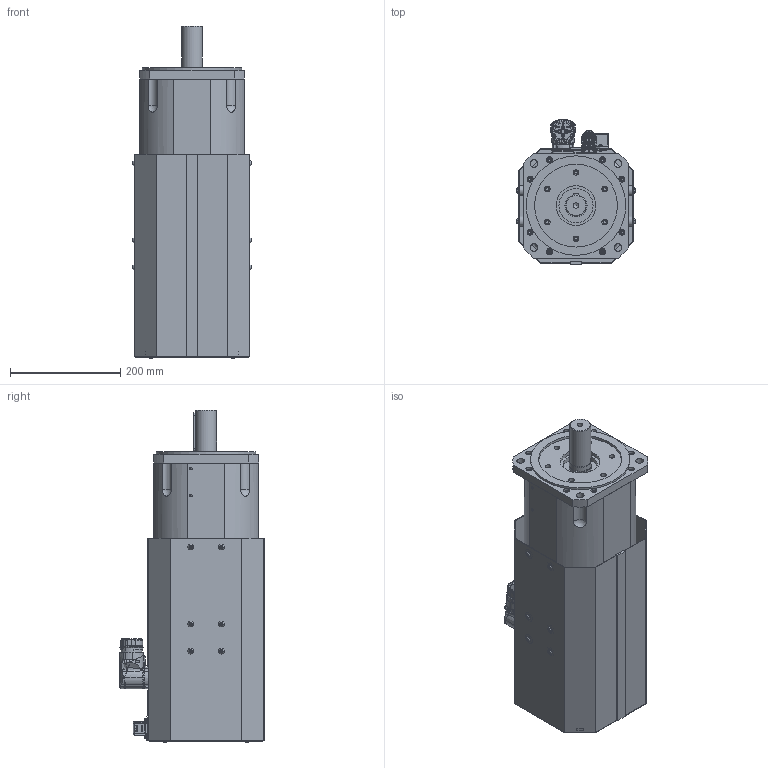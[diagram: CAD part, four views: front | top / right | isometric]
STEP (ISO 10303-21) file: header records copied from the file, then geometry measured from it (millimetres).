
FILE_DESCRIPTION(/* description */ (''),/* implementation_level */ '2;1');
FILE_NAME(/* name */ 'C:\Users\Public\Documents\Autodesk\Inventor LT 2014\Workspace\Motori Sito WEB\TG_6\DSF5_6x\STEP_DSF5_6x\DSF5_64_x199.stp',/* time_stamp */ '2021-04-06T09:45:40+02:00',/* author */ ('marcor'),/* organization */ (''),/* preprocessor_version */ 'ST-DEVELOPER v15.2',/* originating_system */ 'Autodesk Inventor LT ',/* authorisation */ '');
FILE_SCHEMA (('AUTOMOTIVE_DESIGN { 1 0 10303 214 3 1 1 }'));
Products named in the file (1): DSF5_64_x199
Bounding box: 215 x 262.25 x 601.05 mm (x, y, z)
Volume: 14294510.1 mm3; surface area: 1280415 mm2
Topology: 32 solids, 46 shells, 2515 faces, 6248 edges, 4019 vertices
Faces by surface type: plane 1088, cylinder 548, cone 505, bspline 177, torus 151, sphere 46
Full cylindrical faces by diameter (mm): 1.2 x12, 2 x2, 2.2 x4, 2.224 x4, 2.4 x6, 2.5 x4, 2.88 x4, 3 x4, 3.26 x4, 3.5 x10, 3.6 x5, 4 x5, 4.5 x1, 4.8 x4, 4.917 x36, 5 x7, 5.1 x4, 5.4 x1, 5.5 x9, 5.9 x1, 6 x32, 6.5 x32, 7 x4, 8 x3, 8.5 x1, 10 x26, 10.106 x1, 11 x20, 12 x1, 14 x4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
Entity records: 80513 total; most frequent: CARTESIAN_POINT 23875, ORIENTED_EDGE 10928, DIRECTION 10910, EDGE_CURVE 5410, AXIS2_PLACEMENT_3D 4352, VERTEX_POINT 3787, EDGE_LOOP 3443, ADVANCED_FACE 2515
